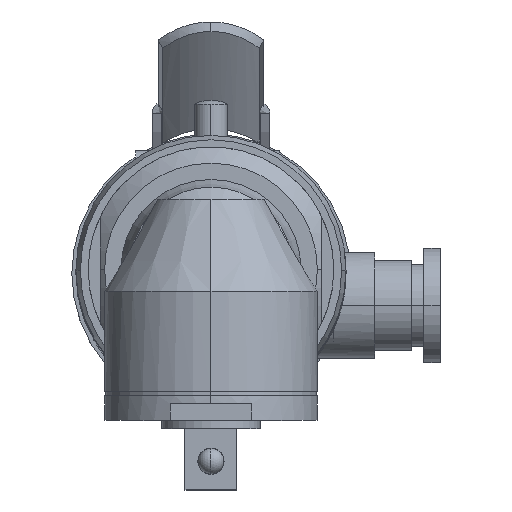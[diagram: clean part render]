
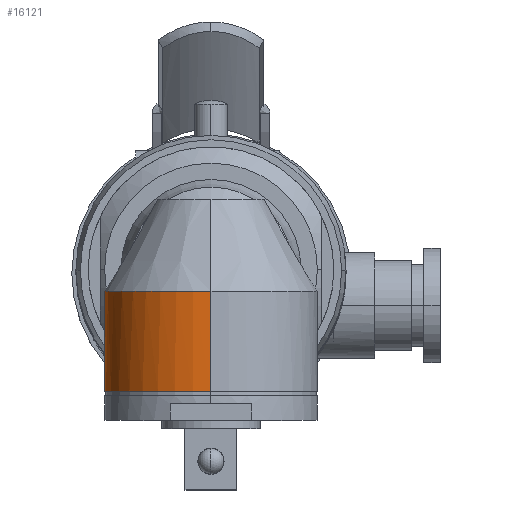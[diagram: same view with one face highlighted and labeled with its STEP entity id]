
A CAD part, top view. The second image highlights one B-rep face of the part: STEP entity #16121.
In plain terms, the highlighted cylindrical face has radius 13 mm (diameter 26 mm), a partial arc.
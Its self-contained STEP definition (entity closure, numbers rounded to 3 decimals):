
#4537 = CIRCLE ( 'NONE', #4561, 13. ) ;
#4538 = CARTESIAN_POINT ( 'NONE',  ( -9.612, -2.758, -8.753 ) ) ;
#4539 = CARTESIAN_POINT ( 'NONE',  ( -9.537, -3.021, -8.836 ) ) ;
#4540 = CARTESIAN_POINT ( 'NONE',  ( -9.45, -3.281, -8.928 ) ) ;
#4541 = CARTESIAN_POINT ( 'NONE',  ( -9.26, -3.785, -9.125 ) ) ;
#4542 = CARTESIAN_POINT ( 'NONE',  ( -9.156, -4.029, -9.23 ) ) ;
#4543 = CARTESIAN_POINT ( 'NONE',  ( -8.82, -4.741, -9.555 ) ) ;
#4544 = CARTESIAN_POINT ( 'NONE',  ( -8.564, -5.189, -9.788 ) ) ;
#4545 = CARTESIAN_POINT ( 'NONE',  ( -7.984, -6.043, -10.266 ) ) ;
#4546 = CARTESIAN_POINT ( 'NONE',  ( -7.659, -6.45, -10.513 ) ) ;
#4547 = CARTESIAN_POINT ( 'NONE',  ( -6.951, -7.207, -10.994 ) ) ;
#4548 = CARTESIAN_POINT ( 'NONE',  ( -6.569, -7.558, -11.228 ) ) ;
#4549 = CARTESIAN_POINT ( 'NONE',  ( -5.741, -8.204, -11.673 ) ) ;
#4550 = CARTESIAN_POINT ( 'NONE',  ( -5.293, -8.502, -11.885 ) ) ;
#4551 = CARTESIAN_POINT ( 'NONE',  ( -4.349, -9.021, -12.261 ) ) ;
#4552 = CARTESIAN_POINT ( 'NONE',  ( -3.853, -9.245, -12.428 ) ) ;
#4553 = CARTESIAN_POINT ( 'NONE',  ( -3.065, -9.523, -12.636 ) ) ;
#4554 = CARTESIAN_POINT ( 'NONE',  ( -2.796, -9.605, -12.699 ) ) ;
#4555 = CARTESIAN_POINT ( 'NONE',  ( -2.254, -9.747, -12.806 ) ) ;
#4556 = CARTESIAN_POINT ( 'NONE',  ( -1.98, -9.806, -12.851 ) ) ;
#4557 = CARTESIAN_POINT ( 'NONE',  ( -1.424, -9.902, -12.925 ) ) ;
#4558 = CARTESIAN_POINT ( 'NONE',  ( -1.143, -9.939, -12.953 ) ) ;
#4559 = DIRECTION ( 'NONE',  ( 0., 0., -1. ) ) ;
#4560 = DIRECTION ( 'NONE',  ( 0., -1., 0. ) ) ;
#4561 = AXIS2_PLACEMENT_3D ( 'NONE', #4567, #4560, #4559 ) ;
#4562 = CARTESIAN_POINT ( 'NONE',  ( -9.612, -2.758, -8.753 ) ) ;
#4563 = CARTESIAN_POINT ( 'NONE',  ( -0.574, -9.988, -12.99 ) ) ;
#4564 = CARTESIAN_POINT ( 'NONE',  ( -0.285, -10., -13. ) ) ;
#4565 = CARTESIAN_POINT ( 'NONE',  ( 0., -10., -13. ) ) ;
#4566 = B_SPLINE_CURVE_WITH_KNOTS ( 'NONE', 3,
 ( #4565, #4564, #4563, #4558, #4557, #4556, #4555, #4554, #4553, #4552, #4551, #4550, #4549, #4548, #4547, #4546, #4545, #4544, #4543, #4542, #4541, #4540, #4539, #4538 ),
 .UNSPECIFIED., .F., .F.,
 ( 4, 2, 2, 2, 2, 2, 2, 2, 2, 2, 2, 4 ),
 ( 0.033, 0.034, 0.035, 0.035, 0.036, 0.038, 0.04, 0.041, 0.043, 0.045, 0.046, 0.046 ),
 .UNSPECIFIED. ) ;
#4567 = CARTESIAN_POINT ( 'NONE',  ( 0., -2.758, 0. ) ) ;
#4588 = DIRECTION ( 'NONE',  ( 0., 0., -1. ) ) ;
#4589 = DIRECTION ( 'NONE',  ( 0., -1., 0. ) ) ;
#4590 = CARTESIAN_POINT ( 'NONE',  ( 0., 8.5, 0. ) ) ;
#4591 = AXIS2_PLACEMENT_3D ( 'NONE', #4590, #4589, #4588 ) ;
#4604 = CYLINDRICAL_SURFACE ( 'NONE', #4591, 13. ) ;
#4607 = FACE_OUTER_BOUND ( 'NONE', #16117, .T. ) ;
#4628 = DIRECTION ( 'NONE',  ( 0., 0., 1. ) ) ;
#4629 = DIRECTION ( 'NONE',  ( 0., 1., 0. ) ) ;
#4630 = CARTESIAN_POINT ( 'NONE',  ( 0., -15., 0. ) ) ;
#4631 = AXIS2_PLACEMENT_3D ( 'NONE', #4630, #4629, #4628 ) ;
#4632 = CIRCLE ( 'NONE', #4631, 13. ) ;
#4851 = CARTESIAN_POINT ( 'NONE',  ( 0., -10., -13. ) ) ;
#4852 = DIRECTION ( 'NONE',  ( 0., -1., 0. ) ) ;
#4853 = VECTOR ( 'NONE', #4852, 1000. ) ;
#4854 = CARTESIAN_POINT ( 'NONE',  ( 0., 8.5, -13. ) ) ;
#4855 = LINE ( 'NONE', #4854, #4853 ) ;
#4857 = CARTESIAN_POINT ( 'NONE',  ( 0., -2.758, 13. ) ) ;
#4878 = DIRECTION ( 'NONE',  ( 0., -1., 0. ) ) ;
#4879 = VECTOR ( 'NONE', #4878, 1000. ) ;
#4880 = CARTESIAN_POINT ( 'NONE',  ( 0., 8.5, 13. ) ) ;
#4881 = LINE ( 'NONE', #4880, #4879 ) ;
#4900 = CARTESIAN_POINT ( 'NONE',  ( 0., -15., -13. ) ) ;
#4978 = CARTESIAN_POINT ( 'NONE',  ( 0., -15., 13. ) ) ;
#16103 = ORIENTED_EDGE ( 'NONE', *, *, #16240, .T. ) ;
#16104 = ORIENTED_EDGE ( 'NONE', *, *, #16141, .T. ) ;
#16107 = EDGE_CURVE ( 'NONE', #16241, #16118, #4566, .T. ) ;
#16108 = ORIENTED_EDGE ( 'NONE', *, *, #16107, .F. ) ;
#16115 = EDGE_CURVE ( 'NONE', #16239, #16118, #4537, .T. ) ;
#16117 = EDGE_LOOP ( 'NONE', ( #16129, #16120, #16108, #16103, #16104 ) ) ;
#16118 = VERTEX_POINT ( 'NONE', #4562 ) ;
#16120 = ORIENTED_EDGE ( 'NONE', *, *, #16115, .T. ) ;
#16121 = ADVANCED_FACE ( 'NONE', ( #4607 ), #4604, .T. ) ;
#16129 = ORIENTED_EDGE ( 'NONE', *, *, #16255, .F. ) ;
#16141 = EDGE_CURVE ( 'NONE', #16246, #16288, #4632, .T. ) ;
#16239 = VERTEX_POINT ( 'NONE', #4857 ) ;
#16240 = EDGE_CURVE ( 'NONE', #16241, #16246, #4855, .T. ) ;
#16241 = VERTEX_POINT ( 'NONE', #4851 ) ;
#16246 = VERTEX_POINT ( 'NONE', #4900 ) ;
#16255 = EDGE_CURVE ( 'NONE', #16239, #16288, #4881, .T. ) ;
#16288 = VERTEX_POINT ( 'NONE', #4978 ) ;
